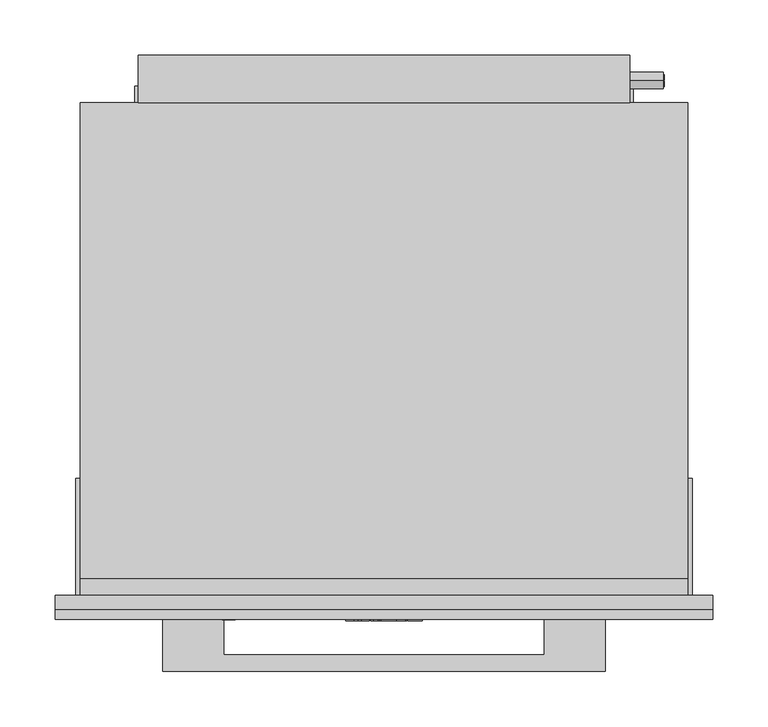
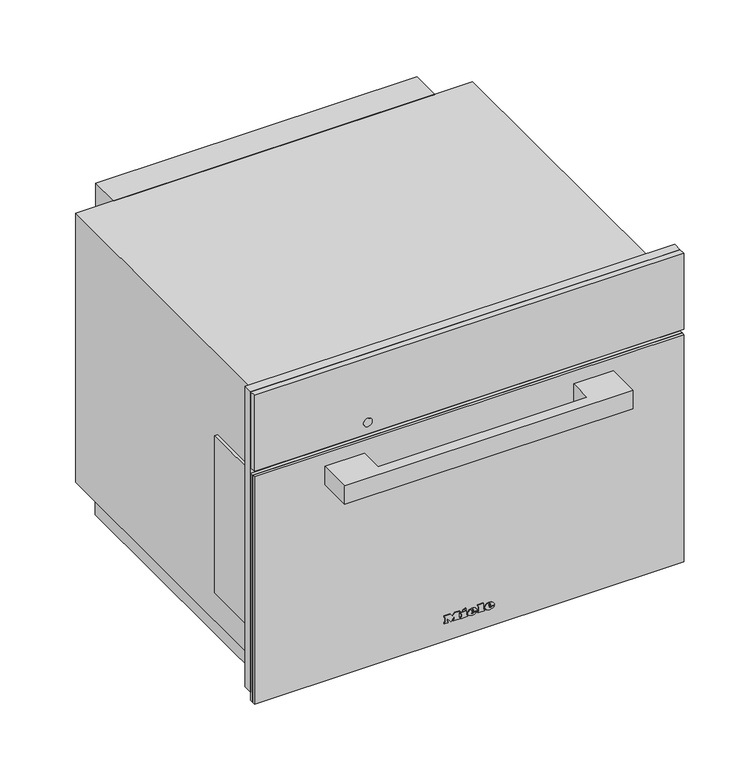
"""IFC4 building model written with IfcOpenShell, lengths in millimetres: proxy geometry, 11103650_D_M7244TC_OBSW : 24724420_D_11103650_M7244TC_OBSW."""

import ifcopenshell
import ifcopenshell.guid

model = None  # the IFC model being written
_history = None  # IfcOwnerHistory: only IFC2X3 demands one
_inside = {}  # id of a spatial element -> (the spatial element, [elements in it])
_under = {}  # id of a project, library or spatial element -> (it, [spatial elements below it])
_declared = {}  # id of a project -> (the project, [libraries it declares])
_typed = {}  # id of a type object -> (the type object, [elements of that type])
_made_of = {}  # id of a material, layer set ... -> (it, [elements and type objects made of it])


def new_model(schema):
    """Start an empty IFC model of exactly this schema.

    Asked for "IFC4X3", IfcOpenShell would pick the latest addendum, in which some entities
    have other attributes; the version numbers below select the first issue.
    IFC2X3 requires an IfcOwnerHistory on every rooted entity: one is made here for all.
    """
    global model, _history
    if schema == "IFC4X3":
        model = ifcopenshell.file(schema_version=(4, 3, 0, 0))
    else:
        model = ifcopenshell.file(schema=schema)
    _inside.clear()
    _under.clear()
    _declared.clear()
    _typed.clear()
    _made_of.clear()
    _history = None
    if model.schema == "IFC2X3":
        org = make("IfcOrganization", Name="unknown")
        user = make(
            "IfcPersonAndOrganization",
            ThePerson=make("IfcPerson", FamilyName="unknown"),
            TheOrganization=org,
        )
        app = make(
            "IfcApplication",
            ApplicationDeveloper=org,
            Version="unknown",
            ApplicationFullName="unknown",
            ApplicationIdentifier="unknown",
        )
        _history = make(
            "IfcOwnerHistory",
            OwningUser=user,
            OwningApplication=app,
            ChangeAction="ADDED",
            CreationDate=0,
        )
    return model


def make(cls, **values):
    """One entity of the class cls with the attributes given. An attribute that is None is left unset."""
    return model.create_entity(
        cls, **{name: value for name, value in values.items() if value is not None}
    )


def rooted(cls, **values):
    """An entity with a GlobalId (a new one), such as an element, a storey or a relation."""
    return make(cls, GlobalId=ifcopenshell.guid.new(), OwnerHistory=_history, **values)


def si_unit(unit_type, name, prefix=None):
    """IfcSIUnit, for example si_unit("LENGTHUNIT", "METRE", prefix="MILLI")."""
    return make("IfcSIUnit", UnitType=unit_type, Prefix=prefix, Name=name)


def assignment(units):
    """IfcUnitAssignment: the units of a project."""
    return None if units is None else make("IfcUnitAssignment", Units=units)


def point(xyz):
    """IfcCartesianPoint."""
    return None if xyz is None else make("IfcCartesianPoint", Coordinates=xyz)


def direction(xyz):
    """IfcDirection."""
    return None if xyz is None else make("IfcDirection", DirectionRatios=xyz)


def frame(location, z_axis=None, x_axis=None):
    """IfcAxis2Placement3D, a coordinate frame: its origin and axes. An axis left out is left unset."""
    return make(
        "IfcAxis2Placement3D",
        Location=point(location),
        Axis=direction(z_axis),
        RefDirection=direction(x_axis),
    )


def frame_2d(location, x_axis=None):
    """IfcAxis2Placement2D, a coordinate frame in the plane: its origin and x axis."""
    return make(
        "IfcAxis2Placement2D", Location=point(location), RefDirection=direction(x_axis)
    )


def origin():
    """The frame at (0, 0, 0) with its axes left unset."""
    return frame((0.0, 0.0, 0.0))


def origin_with_axes():
    """The frame at (0, 0, 0) with the z axis (0, 0, 1) and the x axis (1, 0, 0) written out."""
    return frame((0.0, 0.0, 0.0), z_axis=(0.0, 0.0, 1.0), x_axis=(1.0, 0.0, 0.0))


def place(relative_to, where):
    """IfcLocalPlacement: puts the frame where relative to a parent placement (None: the world)."""
    return make(
        "IfcLocalPlacement", PlacementRelTo=relative_to, RelativePlacement=where
    )


def context(
    kind, dimensions, precision=None, world=None, true_north=None, identifier=None
):
    """IfcGeometricRepresentationContext, for example the 3D "Model" context."""
    return make(
        "IfcGeometricRepresentationContext",
        ContextIdentifier=identifier,
        ContextType=kind,
        CoordinateSpaceDimension=dimensions,
        Precision=precision,
        WorldCoordinateSystem=world,
        TrueNorth=true_north,
    )


def project(units=None, contexts=None):
    """IfcProject with its units and contexts."""
    return rooted(
        "IfcProject",
        Name="project",
        RepresentationContexts=contexts,
        UnitsInContext=assignment(units),
    )


def spatial(cls, under=None, at=None, **own):
    """A site, building, storey or space (cls), placed at a placement, below another one or the project."""
    s = rooted(cls, ObjectPlacement=at, **own)
    if under is not None:
        _under.setdefault(under.id(), (under, []))[1].append(s)
    return s


def polyline(points):
    """IfcPolyline through the points."""
    return make("IfcPolyline", Points=[point(p) for p in points])


def circle_curve(where, radius):
    """IfcCircle in the frame where."""
    return make("IfcCircle", Position=where, Radius=radius)


def ellipse_curve(where, semi_axis1, semi_axis2):
    """IfcEllipse in the frame where."""
    return make(
        "IfcEllipse", Position=where, SemiAxis1=semi_axis1, SemiAxis2=semi_axis2
    )


def trimmed(basis, trim1, trim2, sense, master):
    """IfcTrimmedCurve: the piece of a basis curve between two trims."""
    return make(
        "IfcTrimmedCurve",
        BasisCurve=basis,
        Trim1=trim1,
        Trim2=trim2,
        SenseAgreement=sense,
        MasterRepresentation=master,
    )


def segment(curve, same_sense, transition):
    """IfcCompositeCurveSegment."""
    return make(
        "IfcCompositeCurveSegment",
        Transition=transition,
        SameSense=same_sense,
        ParentCurve=curve,
    )


def composite_curve(segments, self_intersect=None):
    """IfcCompositeCurve: segments joined end to end."""
    return make("IfcCompositeCurve", Segments=segments, SelfIntersect=self_intersect)


def outline(outer, holes=None, kind="AREA"):
    """IfcArbitraryClosedProfileDef: a profile drawn as a closed curve; with holes, ...WithVoids."""
    if holes is None:
        return make("IfcArbitraryClosedProfileDef", ProfileType=kind, OuterCurve=outer)
    return make(
        "IfcArbitraryProfileDefWithVoids",
        ProfileType=kind,
        OuterCurve=outer,
        InnerCurves=holes,
    )


def extrude(swept, where, along, depth):
    """IfcExtrudedAreaSolid: the profile swept, set in the frame where, extruded along a direction by depth."""
    return make(
        "IfcExtrudedAreaSolid",
        SweptArea=swept,
        Position=where,
        ExtrudedDirection=direction(along),
        Depth=depth,
    )


def faces_of(points, faces, orient=None, outer=None):
    """IfcFace entities. A face is a list of loops; a loop is a list of indices into points, from 0.

    orient and outer hold one flag for each loop. By default every Orientation is true, the
    first loop of a face is its IfcFaceOuterBound and the others are IfcFaceBound.
    """
    made = []
    for i, loops in enumerate(faces):
        bounds = []
        for j, loop in enumerate(loops):
            is_outer = j == 0 if outer is None else outer[i][j]
            bounds.append(
                make(
                    "IfcFaceOuterBound" if is_outer else "IfcFaceBound",
                    Bound=make("IfcPolyLoop", Polygon=[points[k] for k in loop]),
                    Orientation=True if orient is None else orient[i][j],
                )
            )
        made.append(make("IfcFace", Bounds=bounds))
    return made


def faceted_brep(points, faces, orient=None, outer=None, voids=None):
    """IfcFacetedBrep: a solid bounded by flat faces; with voids (closed shells), ...WithVoids."""
    shared = [point(p) for p in points]
    hull = make("IfcClosedShell", CfsFaces=faces_of(shared, faces, orient, outer))
    if voids is None:
        return make("IfcFacetedBrep", Outer=hull)
    return make(
        "IfcFacetedBrepWithVoids",
        Outer=hull,
        Voids=[
            make(cls, CfsFaces=faces_of(shared, fs, o, b)) for cls, fs, o, b in voids
        ],
    )


def shape(context_of_items, identifier, shape_type, items):
    """IfcShapeRepresentation: the items that make up one representation, for example the "Body"."""
    return make(
        "IfcShapeRepresentation",
        ContextOfItems=context_of_items,
        RepresentationIdentifier=identifier,
        RepresentationType=shape_type,
        Items=items,
    )


def source(mapping_origin, context_of_items, identifier, shape_type, items):
    """IfcRepresentationMap: a shape defined once, which mapped items show again and again."""
    return make(
        "IfcRepresentationMap",
        MappingOrigin=mapping_origin,
        MappedRepresentation=shape(context_of_items, identifier, shape_type, items),
    )


def transform(
    local_origin,
    x_axis=None,
    y_axis=None,
    z_axis=None,
    scale=None,
    scale2=None,
    scale3=None,
    uniform=True,
):
    """IfcCartesianTransformationOperator3D, or its non-uniform kind. x_axis, y_axis, z_axis: its Axis1, 2, 3."""
    if uniform:
        return make(
            "IfcCartesianTransformationOperator3D",
            Axis1=direction(x_axis),
            Axis2=direction(y_axis),
            LocalOrigin=point(local_origin),
            Scale=scale,
            Axis3=direction(z_axis),
        )
    return make(
        "IfcCartesianTransformationOperator3DnonUniform",
        Axis1=direction(x_axis),
        Axis2=direction(y_axis),
        LocalOrigin=point(local_origin),
        Scale=scale,
        Axis3=direction(z_axis),
        Scale2=scale2,
        Scale3=scale3,
    )


def mapped(mapping_source, mapping_target):
    """IfcMappedItem: shows the shape of a source again, moved by a transform."""
    return make(
        "IfcMappedItem", MappingSource=mapping_source, MappingTarget=mapping_target
    )


def made_of(thing, what):
    """Note that an element or type object is made of a material, layer set ...; save() writes the relation."""
    if what is not None:
        _made_of.setdefault(what.id(), (what, []))[1].append(thing)
    return thing


def element(
    cls,
    number,
    at=None,
    inside=None,
    cuts=None,
    type_object=None,
    material=None,
    context=None,
    identifier="Body",
    shape_type=None,
    held_by="IfcProductDefinitionShape",
    body=None,
    shapes=None,
    **own,
):
    """One element of the class cls, such as IfcWall. Its Tag is "e" and its number.

    at: its placement. inside: the storey or other place that contains it. cuts: it is an
    opening in that element (IfcRelVoidsElement). A single representation is given by context,
    identifier, shape_type and body (its items); several are given by shapes. held_by: the class
    of the entity that holds the representations. save() writes the other relations.
    """
    e = rooted(cls, Tag="e%d" % number, ObjectPlacement=at, **own)
    if body is not None:
        shapes = [shape(context, identifier, shape_type, body)]
    if shapes is not None:
        e.Representation = make(held_by, Representations=shapes)
    if inside is not None:
        _inside.setdefault(inside.id(), (inside, []))[1].append(e)
    if cuts is not None:
        rooted(
            "IfcRelVoidsElement", RelatingBuildingElement=cuts, RelatedOpeningElement=e
        )
    if type_object is not None:
        _typed.setdefault(type_object.id(), (type_object, []))[1].append(e)
    return made_of(e, material)


def aggregate(whole, parts):
    """IfcRelAggregates: a whole, such as a stair, and the parts it consists of."""
    return rooted("IfcRelAggregates", RelatingObject=whole, RelatedObjects=parts)


def save(model, path):
    """Write the relations noted so far, then the file.

    IfcRelAggregates (storeys below a building ...), IfcRelContainedInSpatialStructure (elements
    in a storey), IfcRelDefinesByType, IfcRelAssociatesMaterial and IfcRelDeclares: one each for
    every whole, place, type object, material and project.
    """
    for whole, parts in _under.values():
        aggregate(whole, parts)
    for where, things in _inside.values():
        rooted(
            "IfcRelContainedInSpatialStructure",
            RelatedElements=things,
            RelatingStructure=where,
        )
    for kind, things in _typed.values():
        rooted("IfcRelDefinesByType", RelatedObjects=things, RelatingType=kind)
    for what, things in _made_of.values():
        rooted("IfcRelAssociatesMaterial", RelatedObjects=things, RelatingMaterial=what)
    for by, libraries in _declared.values():
        rooted("IfcRelDeclares", RelatingContext=by, RelatedDefinitions=libraries)
    model.write(path)


def plane_surface(at):
    """IfcPlane: the flat surface through the origin of the frame at, square to its z axis."""
    return make("IfcPlane", Position=at)


def cylinder_surface(at, radius):
    """IfcCylindricalSurface: all points at the distance radius from the z axis of the frame at."""
    return make("IfcCylindricalSurface", Position=at, Radius=radius)


def revolved_surface(curve, axis_point, axis_direction):
    """IfcSurfaceOfRevolution: the curve turned about the line through axis_point along axis_direction."""
    return make(
        "IfcSurfaceOfRevolution",
        SweptCurve=make("IfcArbitraryOpenProfileDef", ProfileType="CURVE", Curve=curve),
        AxisPosition=make("IfcAxis1Placement", Location=point(axis_point), Axis=direction(axis_direction)),
    )


def extruded_surface(curve, direction_of_extrusion, depth):
    """IfcSurfaceOfLinearExtrusion: the curve pushed along a direction by depth."""
    return make(
        "IfcSurfaceOfLinearExtrusion",
        SweptCurve=make("IfcArbitraryOpenProfileDef", ProfileType="CURVE", Curve=curve),
        ExtrudedDirection=direction(direction_of_extrusion),
        Depth=depth,
    )


def advanced_brep(points, edges, surfaces, faces):
    """IfcAdvancedBrep: a solid bounded by faces that lie on surfaces and meet in shared edges.

    An edge is (start, end): straight between two places in points (the first is 0);
    or (start, end, curve); or (start, end, curve, False) where it runs against its curve.
    A face is (place in surfaces, loops), or (place, loops, False) where it looks against
    its surface's normal. A loop lists edges by number (the first is 1), with a minus sign
    where the edge is run from its end to its start. The first loop is the outer one.
    """
    corners = [point(p) for p in points]
    vertices = [make("IfcVertexPoint", VertexGeometry=c) for c in corners]
    made = []
    for start, end, *more in edges:
        made.append(
            make(
                "IfcEdgeCurve",
                EdgeStart=vertices[start],
                EdgeEnd=vertices[end],
                EdgeGeometry=more[0] if more else make("IfcPolyline", Points=[corners[start], corners[end]]),
                SameSense=more[1] if len(more) > 1 else True,
            )
        )
    hull = []
    for where, loops, *sense in faces:
        bounds = []
        for j, loop in enumerate(loops):
            ring = [make("IfcOrientedEdge", EdgeElement=made[abs(k) - 1], Orientation=k > 0) for k in loop]
            bounds.append(
                make(
                    "IfcFaceOuterBound" if j == 0 else "IfcFaceBound",
                    Bound=make("IfcEdgeLoop", EdgeList=ring),
                    Orientation=True,
                )
            )
        hull.append(make("IfcAdvancedFace", Bounds=bounds, FaceSurface=surfaces[where], SameSense=sense[0] if sense else True))
    return make("IfcAdvancedBrep", Outer=make("IfcClosedShell", CfsFaces=hull))


def specialty_equipment_be753a0b(model_context):
    return source(origin(), model_context, "Body", "SolidModel", [
        extrude(outline(polyline([(456.0, 297.5), (456.0, -297.5), (16.0, -297.5), (16.0, 297.5), (456.0, 297.5)]), holes=[polyline([(347.0, -270.0), (347.0, 270.0), (40.0, 270.0), (40.0, -270.0), (347.0, -270.0)])]), frame((0.0, -13.0, 0.0), z_axis=(0.0, 1.0, 0.0), x_axis=(0.0, 0.0, 1.0)), (0.0, 0.0, 1.0), 13.0),
        extrude(outline(composite_curve([segment(trimmed(circle_curve(frame_2d((251.5, 37.5)), 10.5), [point((251.5, 27.0))], [point((251.5, 48.0))], False, "CARTESIAN"), True, "CONTINUOUS"), segment(trimmed(circle_curve(frame_2d((251.5, 37.5)), 10.5), [point((251.5, 48.0))], [point((251.5, 27.0))], False, "CARTESIAN"), True, "CONTINUOUS")], self_intersect=False)), origin_with_axes(), (0.0, 0.0, 1.0), 3.0),
        extrude(outline(composite_curve([segment(trimmed(circle_curve(frame_2d((251.5, 397.5)), 10.5), [point((251.5, 387.0))], [point((251.5, 408.0))], False, "CARTESIAN"), True, "CONTINUOUS"), segment(trimmed(circle_curve(frame_2d((251.5, 397.5)), 10.5), [point((251.5, 408.0))], [point((251.5, 387.0))], False, "CARTESIAN"), True, "CONTINUOUS")], self_intersect=False)), origin_with_axes(), (0.0, 0.0, 1.0), 3.0),
        extrude(outline(composite_curve([segment(trimmed(circle_curve(frame_2d((-251.5, 397.5)), 10.5), [point((-251.5, 387.0))], [point((-251.5, 408.0))], False, "CARTESIAN"), True, "CONTINUOUS"), segment(trimmed(circle_curve(frame_2d((-251.5, 397.5)), 10.5), [point((-251.5, 408.0))], [point((-251.5, 387.0))], False, "CARTESIAN"), True, "CONTINUOUS")], self_intersect=False)), origin_with_axes(), (0.0, 0.0, 1.0), 3.0),
        extrude(outline(composite_curve([segment(trimmed(circle_curve(frame_2d((-251.5, 37.5)), 10.5), [point((-251.5, 27.0))], [point((-251.5, 48.0))], False, "CARTESIAN"), True, "CONTINUOUS"), segment(trimmed(circle_curve(frame_2d((-251.5, 37.5)), 10.5), [point((-251.5, 48.0))], [point((-251.5, 27.0))], False, "CARTESIAN"), True, "CONTINUOUS")], self_intersect=False)), origin_with_axes(), (0.0, 0.0, 1.0), 3.0),
        extrude(outline(polyline([(115.0, 330.0), (115.0, 130.0), (-115.0, 130.0), (-115.0, 330.0), (115.0, 330.0)])), frame((0.0, 0.0, 11.0), z_axis=(0.0, 0.0, 1.0), x_axis=(1.0, 0.0, 0.0)), (0.0, 0.0, 1.0), 26.0),
        extrude(outline(composite_curve([segment(trimmed(circle_curve(frame_2d((466.0, 369.0)), 7.5), [point((466.0, 361.5))], [point((466.0, 376.5))], False, "CARTESIAN"), True, "CONTINUOUS"), segment(trimmed(circle_curve(frame_2d((466.0, 369.0)), 7.5), [point((466.0, 376.5))], [point((466.0, 361.5))], False, "CARTESIAN"), True, "CONTINUOUS")], self_intersect=False)), frame((222.5, 0.0, 0.0), z_axis=(1.0, 0.0, 0.0), x_axis=(0.0, 1.0, 0.0)), (0.0, 0.0, 1.0), 30.0),
        extrude(outline(polyline([(-222.5, 489.0), (222.5, 489.0), (222.5, 446.0), (-222.5, 446.0), (-222.5, 489.0)])), frame((0.0, 0.0, 316.0), z_axis=(0.0, 0.0, 1.0), x_axis=(1.0, 0.0, 0.0)), (0.0, 0.0, 1.0), 115.0),
        extrude(outline(polyline([(275.0, 0.0), (275.0, 106.0), (279.0, 106.0), (279.0, 0.0), (275.0, 0.0)])), frame((0.0, 0.0, 83.2054686), z_axis=(0.0, 0.0, 1.0), x_axis=(1.0, 0.0, 0.0)), (0.0, 0.0, 1.0), 230.0),
        extrude(outline(polyline([(-279.0, 0.0), (-279.0, 106.0), (-275.0, 106.0), (-275.0, 0.0), (-279.0, 0.0)])), frame((0.0, 0.0, 83.2054686), z_axis=(0.0, 0.0, 1.0), x_axis=(1.0, 0.0, 0.0)), (0.0, 0.0, 1.0), 230.0),
        extrude(outline(polyline([(460.5132233, 374.0), (465.5132233, 374.0), (465.5132233, 373.0), (461.5132233, 373.0), (461.5132233, 369.5), (464.5132233, 369.5), (464.5132233, 368.5), (461.5132233, 368.5), (461.5132233, 365.0), (465.5132233, 365.0), (465.5132233, 364.0), (460.5132233, 364.0), (460.5132233, 374.0)])), frame((252.5, 0.0, 0.0), z_axis=(1.0, 0.0, 0.0), x_axis=(0.0, 1.0, 0.0)), (0.0, 0.0, 1.0), 1.0),
        extrude(outline(polyline([(466.5132233, 364.0), (466.5132233, 374.0), (467.5176929, 374.0), (467.5176929, 365.0), (471.5132233, 365.0), (471.5132233, 364.0), (466.5132233, 364.0)])), frame((252.5, 0.0, 0.0), z_axis=(1.0, 0.0, 0.0), x_axis=(0.0, 1.0, 0.0)), (0.0, 0.0, 1.0), 1.0),
        extrude(outline(polyline([(289.0, -225.5), (58.0, -225.5), (58.0, 0.0), (58.0, 225.5), (289.0, 225.5), (289.0, 0.0), (289.0, -225.5)])), frame((0.0, 446.0, 0.0), z_axis=(0.0, 1.0, 0.0), x_axis=(0.0, 0.0, 1.0)), (0.0, 0.0, 1.0), 15.0),
        faceted_brep([(-275.0, 446.0, 431.0), (275.0, 446.0, 431.0), (275.0, 446.0, 37.0), (-275.0, 446.0, 37.0), (-275.0, 0.0, 37.0), (-264.0, 0.0, 37.0), (-264.0, 0.0, 3.0), (-239.0, 0.0, 3.0), (-239.0, 0.0, 37.0), (239.0, 0.0, 37.0), (239.0, 0.0, 3.0), (264.0, 0.0, 3.0), (264.0, 0.0, 37.0), (275.0, 0.0, 37.0), (275.0, 0.0, 438.0), (-275.0, 0.0, 438.0), (-270.0, 0.0, 347.0), (270.0, 0.0, 347.0), (270.0, 0.0, 40.0), (-270.0, 0.0, 40.0), (-275.0, 15.0, 431.0), (275.0, 15.0, 431.0), (-275.0, 15.0, 438.0), (275.0, 15.0, 438.0), (270.0, 16.0, 347.0), (-270.0, 16.0, 347.0), (-270.0, 16.0, 40.0), (270.0, 16.0, 40.0), (225.0, 16.0, 303.0), (225.0, 16.0, 71.0), (-225.0, 16.0, 71.0), (-225.0, 16.0, 303.0), (225.0, 444.0, 303.0), (-225.0, 444.0, 303.0), (-225.0, 444.0, 71.0), (225.0, 444.0, 71.0), (-239.0, 418.0, 37.0), (-264.0, 418.0, 37.0), (264.0, 418.0, 37.0), (239.0, 418.0, 37.0), (-239.0, 418.0, 3.0), (239.0, 418.0, 3.0), (264.0, 418.0, 3.0), (-264.0, 418.0, 3.0)], [[[0, 1, 2, 3]], [[4, 5, 6, 7, 8, 9, 10, 11, 12, 13, 14, 15], [16, 17, 18, 19]], [[1, 0, 20, 21]], [[0, 3, 4, 15, 22, 20]], [[2, 1, 21, 23, 14, 13]], [[24, 25, 26, 27], [28, 29, 30, 31]], [[25, 24, 17, 16]], [[26, 25, 16, 19]], [[27, 26, 19, 18]], [[24, 27, 18, 17]], [[32, 33, 34, 35]], [[32, 35, 29, 28]], [[35, 34, 30, 29]], [[34, 33, 31, 30]], [[33, 32, 28, 31]], [[14, 23, 22, 15]], [[23, 21, 20, 22]], [[36, 37, 5, 4, 3, 2, 13, 12, 38, 39, 9, 8]], [[36, 8, 7, 40]], [[9, 39, 41, 10]], [[39, 38, 42, 41]], [[38, 12, 11, 42]], [[5, 37, 43, 6]], [[37, 36, 40, 43]], [[7, 6, 43, 40]], [[11, 10, 41, 42]]]),
        advanced_brep(
        [(27.088, -23.0, 32.7018), (27.088, -23.0, 33.8532), (34.7146, -23.0, 33.8532), (21.445, -23.0, 33.8532), (24.58, -23.0, 30.0), (34.5208, -23.0, 32.7018), (31.078, -23.0, 32.7018), (28.3648, -23.0, 31.425), (27.088, -23.0, 35.3124), (27.088, -23.0, 36.555), (29.0374, -23.0, 36.555), (29.0374, -23.0, 35.3124), (27.088, -22.0, 32.7018), (28.3648, -22.0, 31.425), (31.078, -22.0, 32.7018), (34.5208, -22.0, 32.7018), (24.58, -22.0, 30.0), (21.445, -22.0, 33.8532), (34.7146, -22.0, 33.8532), (27.088, -22.0, 33.8532), (27.088, -22.0, 35.3124), (29.0374, -22.0, 35.3124), (29.0374, -22.0, 36.555), (27.088, -22.0, 36.555)],
        [
            (0, 1),
            (1, 2),
            (2, 3, ellipse_curve(frame((28.0798, -23.0, 33.8532), z_axis=(0.0, -1.0, 0.0), x_axis=(-1.0, 0.0, 0.0)), 6.6348, 5.4834)),
            (3, 4, circle_curve(frame((25.8568622, -23.0, 34.2408), z_axis=(0.0, -1.0, 0.0), x_axis=(0.0, 0.0, -1.0)), 4.4288556)),
            (4, 5, circle_curve(frame((27.9469808, -23.0, 37.2504), z_axis=(0.0, -1.0, 0.0), x_axis=(0.0, 0.0, -1.0)), 7.9940516)),
            (5, 6),
            (6, 7, circle_curve(frame((28.9220588, -23.0, 33.762), z_axis=(0.0, 1.0, 0.0), x_axis=(0.0, 0.0, -1.0)), 2.4025208)),
            (7, 0, circle_curve(frame((28.3648, -23.0, 32.7018), z_axis=(0.0, 1.0, 0.0), x_axis=(0.0, 0.0, -1.0)), 1.2768)),
            (8, 9),
            (9, 10, circle_curve(frame((28.0627, -23.0, 36.555), z_axis=(0.0, 1.0, 0.0), x_axis=(0.0, 0.0, -1.0)), 0.9747)),
            (10, 11),
            (11, 8),
            (12, 13, circle_curve(frame((28.3648, -22.0, 32.7018), z_axis=(0.0, -1.0, 0.0), x_axis=(0.0, 0.0, -1.0)), 1.2768)),
            (13, 14, circle_curve(frame((28.9220588, -22.0, 33.762), z_axis=(0.0, -1.0, 0.0), x_axis=(0.0, 0.0, -1.0)), 2.4025208)),
            (14, 15),
            (15, 16, circle_curve(frame((27.9469808, -22.0, 37.2504), z_axis=(0.0, 1.0, 0.0), x_axis=(0.0, 0.0, -1.0)), 7.9940516)),
            (16, 17, circle_curve(frame((25.8568622, -22.0, 34.2408), z_axis=(0.0, 1.0, 0.0), x_axis=(0.0, 0.0, -1.0)), 4.4288556)),
            (17, 18, ellipse_curve(frame((28.0798, -22.0, 33.8532), z_axis=(0.0, 1.0, 0.0), x_axis=(-1.0, 0.0, 0.0)), 6.6348, 5.4834)),
            (18, 19),
            (19, 12),
            (20, 21),
            (21, 22),
            (22, 23, circle_curve(frame((28.0627, -22.0, 36.555), z_axis=(0.0, -1.0, 0.0), x_axis=(0.0, 0.0, -1.0)), 0.9747)),
            (23, 20),
            (0, 12),
            (19, 1),
            (18, 2),
            (5, 15),
            (14, 6),
            (17, 3),
            (13, 7),
            (16, 4),
            (8, 20),
            (23, 9),
            (22, 10),
            (21, 11),
        ],
        [
            plane_surface(frame((27.088, -23.0, 33.8532), z_axis=(0.0, -1.0, 0.0), x_axis=(0.0, 0.0, 1.0))),
            plane_surface(frame((27.088, -22.0, 33.8532), z_axis=(0.0, 1.0, 0.0), x_axis=(0.0, 0.0, -1.0))),
            plane_surface(frame((27.088, -23.0, 32.7018), z_axis=(1.0, 0.0, 0.0), x_axis=(0.0, 1.0, 0.0))),
            plane_surface(frame((27.088, -23.0, 33.8532), z_axis=(0.0, 0.0, -1.0), x_axis=(0.0, 1.0, 0.0))),
            plane_surface(frame((34.5208, -23.0, 32.7018), z_axis=(0.0, 0.0, 1.0), x_axis=(0.0, 1.0, 0.0))),
            extruded_surface(trimmed(ellipse_curve(frame((28.0798, -21.0, 33.8532), z_axis=(0.0, -1.0, 0.0), x_axis=(-1.0, 0.0, 0.0)), 6.6348, 5.4834), [point((34.7146, -21.0, 33.8532))], [point((21.445, -21.0, 33.8532))], True, "CARTESIAN"), (0.0, -1.0, 0.0), 1.0),
            revolved_surface(polyline([(28.9220588, -22.0, 31.3594792), (28.9220588, -23.0, 31.3594792)]), (28.9220588, -22.0, 33.762), (0.0, 1.0, 0.0)),
            revolved_surface(polyline([(28.3648, -22.0, 31.424999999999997), (28.3648, -23.0, 31.424999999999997)]), (28.3648, -22.0, 32.7018), (0.0, 1.0, 0.0)),
            cylinder_surface(frame((25.8568622, -22.0, 34.2408), z_axis=(0.0, -1.0, 0.0), x_axis=(0.0, 0.0, -1.0)), 4.4288556),
            cylinder_surface(frame((27.9469808, -22.0, 37.2504), z_axis=(0.0, -1.0, 0.0), x_axis=(0.0, 0.0, -1.0)), 7.9940516),
            plane_surface(frame((27.088, -23.0, 35.3124), z_axis=(1.0, 0.0, 0.0), x_axis=(0.0, 1.0, 0.0))),
            revolved_surface(polyline([(28.0627, -22.0, 35.5803), (28.0627, -23.0, 35.5803)]), (28.0627, -22.0, 36.555), (0.0, 1.0, 0.0)),
            plane_surface(frame((29.0374, -23.0, 36.555), z_axis=(-1.0, 0.0, 0.0), x_axis=(0.0, 1.0, 0.0))),
            plane_surface(frame((29.0374, -23.0, 35.3124), z_axis=(0.0, 0.0, 1.0), x_axis=(0.0, 1.0, 0.0))),
        ],
        [
            (0, [[1, 2, 3, 4, 5, 6, 7, 8], [9, 10, 11, 12]]),
            (1, [[13, 14, 15, 16, 17, 18, 19, 20], [21, 22, 23, 24]]),
            (2, [[-1, 25, -20, 26]]),
            (3, [[-2, -26, -19, 27]]),
            (4, [[-6, 28, -15, 29]]),
            (5, [[-3, -27, -18, 30]]),
            (6, [[-7, -29, -14, 31]]),
            (7, [[-8, -31, -13, -25]]),
            (8, [[-4, -30, -17, 32]]),
            (9, [[-5, -32, -16, -28]]),
            (10, [[-9, 33, -24, 34]]),
            (11, [[-10, -34, -23, 35]]),
            (12, [[-11, -35, -22, 36]]),
            (13, [[-12, -36, -21, -33]]),
        ],
    ),
        advanced_brep(
        [(3.2962, -23.0, 32.7018), (3.2962, -23.0, 33.8532), (10.9228, -23.0, 33.8532), (-2.3468, -23.0, 33.8532), (0.7882, -23.0, 30.0), (10.729, -23.0, 32.7018), (7.2862, -23.0, 32.7018), (4.573, -23.0, 31.425), (3.2962, -23.0, 35.3124), (3.2962, -23.0, 36.555), (5.2456, -23.0, 36.555), (5.2456, -23.0, 35.3124), (3.2962, -22.0, 32.7018), (4.573, -22.0, 31.425), (7.2862, -22.0, 32.7018), (10.729, -22.0, 32.7018), (0.7882, -22.0, 30.0), (-2.3468, -22.0, 33.8532), (10.9228, -22.0, 33.8532), (3.2962, -22.0, 33.8532), (3.2962, -22.0, 35.3124), (5.2456, -22.0, 35.3124), (5.2456, -22.0, 36.555), (3.2962, -22.0, 36.555)],
        [
            (0, 1),
            (1, 2),
            (2, 3, ellipse_curve(frame((4.288, -23.0, 33.8532), z_axis=(0.0, -1.0, 0.0), x_axis=(-1.0, 0.0, 0.0)), 6.6348, 5.4834)),
            (3, 4, circle_curve(frame((2.0650622, -23.0, 34.2408), z_axis=(0.0, -1.0, 0.0), x_axis=(0.0, 0.0, -1.0)), 4.4288556)),
            (4, 5, circle_curve(frame((4.1551808, -23.0, 37.2504), z_axis=(0.0, -1.0, 0.0), x_axis=(0.0, 0.0, -1.0)), 7.9940516)),
            (5, 6),
            (6, 7, circle_curve(frame((5.1302588, -23.0, 33.762), z_axis=(0.0, 1.0, 0.0), x_axis=(0.0, 0.0, -1.0)), 2.4025208)),
            (7, 0, circle_curve(frame((4.573, -23.0, 32.7018), z_axis=(0.0, 1.0, 0.0), x_axis=(0.0, 0.0, -1.0)), 1.2768)),
            (8, 9),
            (9, 10, circle_curve(frame((4.2709, -23.0, 36.555), z_axis=(0.0, 1.0, 0.0), x_axis=(0.0, 0.0, -1.0)), 0.9747)),
            (10, 11),
            (11, 8),
            (12, 13, circle_curve(frame((4.573, -22.0, 32.7018), z_axis=(0.0, -1.0, 0.0), x_axis=(0.0, 0.0, -1.0)), 1.2768)),
            (13, 14, circle_curve(frame((5.1302588, -22.0, 33.762), z_axis=(0.0, -1.0, 0.0), x_axis=(0.0, 0.0, -1.0)), 2.4025208)),
            (14, 15),
            (15, 16, circle_curve(frame((4.1551808, -22.0, 37.2504), z_axis=(0.0, 1.0, 0.0), x_axis=(0.0, 0.0, -1.0)), 7.9940516)),
            (16, 17, circle_curve(frame((2.0650622, -22.0, 34.2408), z_axis=(0.0, 1.0, 0.0), x_axis=(0.0, 0.0, -1.0)), 4.4288556)),
            (17, 18, ellipse_curve(frame((4.288, -22.0, 33.8532), z_axis=(0.0, 1.0, 0.0), x_axis=(-1.0, 0.0, 0.0)), 6.6348, 5.4834)),
            (18, 19),
            (19, 12),
            (20, 21),
            (21, 22),
            (22, 23, circle_curve(frame((4.2709, -22.0, 36.555), z_axis=(0.0, -1.0, 0.0), x_axis=(0.0, 0.0, -1.0)), 0.9747)),
            (23, 20),
            (0, 12),
            (19, 1),
            (18, 2),
            (5, 15),
            (14, 6),
            (17, 3),
            (13, 7),
            (16, 4),
            (8, 20),
            (23, 9),
            (22, 10),
            (21, 11),
        ],
        [
            plane_surface(frame((3.2962, -23.0, 33.8532), z_axis=(0.0, -1.0, 0.0), x_axis=(0.0, 0.0, 1.0))),
            plane_surface(frame((3.2962, -22.0, 33.8532), z_axis=(0.0, 1.0, 0.0), x_axis=(0.0, 0.0, -1.0))),
            plane_surface(frame((3.2962, -23.0, 32.7018), z_axis=(1.0, 0.0, 0.0), x_axis=(0.0, 1.0, 0.0))),
            plane_surface(frame((3.2962, -23.0, 33.8532), z_axis=(0.0, 0.0, -1.0), x_axis=(0.0, 1.0, 0.0))),
            plane_surface(frame((10.729, -23.0, 32.7018), z_axis=(0.0, 0.0, 1.0), x_axis=(0.0, 1.0, 0.0))),
            extruded_surface(trimmed(ellipse_curve(frame((4.288, -21.0, 33.8532), z_axis=(0.0, -1.0, 0.0), x_axis=(-1.0, 0.0, 0.0)), 6.6348, 5.4834), [point((10.9228, -21.0, 33.8532))], [point((-2.3468, -21.0, 33.8532))], True, "CARTESIAN"), (0.0, -1.0, 0.0), 1.0),
            revolved_surface(polyline([(5.1302588, -22.0, 31.3594792), (5.1302588, -23.0, 31.3594792)]), (5.1302588, -22.0, 33.762), (0.0, 1.0, 0.0)),
            revolved_surface(polyline([(4.573, -22.0, 31.424999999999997), (4.573, -23.0, 31.424999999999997)]), (4.573, -22.0, 32.7018), (0.0, 1.0, 0.0)),
            cylinder_surface(frame((2.0650622, -22.0, 34.2408), z_axis=(0.0, -1.0, 0.0), x_axis=(0.0, 0.0, -1.0)), 4.4288556),
            cylinder_surface(frame((4.1551808, -22.0, 37.2504), z_axis=(0.0, -1.0, 0.0), x_axis=(0.0, 0.0, -1.0)), 7.9940516),
            plane_surface(frame((3.2962, -23.0, 35.3124), z_axis=(1.0, 0.0, 0.0), x_axis=(0.0, 1.0, 0.0))),
            revolved_surface(polyline([(4.2709, -22.0, 35.5803), (4.2709, -23.0, 35.5803)]), (4.2709, -22.0, 36.555), (0.0, 1.0, 0.0)),
            plane_surface(frame((5.2456, -23.0, 36.555), z_axis=(-1.0, 0.0, 0.0), x_axis=(0.0, 1.0, 0.0))),
            plane_surface(frame((5.2456, -23.0, 35.3124), z_axis=(0.0, 0.0, 1.0), x_axis=(0.0, 1.0, 0.0))),
        ],
        [
            (0, [[1, 2, 3, 4, 5, 6, 7, 8], [9, 10, 11, 12]]),
            (1, [[13, 14, 15, 16, 17, 18, 19, 20], [21, 22, 23, 24]]),
            (2, [[-1, 25, -20, 26]]),
            (3, [[-2, -26, -19, 27]]),
            (4, [[-6, 28, -15, 29]]),
            (5, [[-3, -27, -18, 30]]),
            (6, [[-7, -29, -14, 31]]),
            (7, [[-8, -31, -13, -25]]),
            (8, [[-4, -30, -17, 32]]),
            (9, [[-5, -32, -16, -28]]),
            (10, [[-9, 33, -24, 34]]),
            (11, [[-10, -34, -23, 35]]),
            (12, [[-11, -35, -22, 36]]),
            (13, [[-12, -36, -21, -33]]),
        ],
    ),
        extrude(outline(polyline([(40.7274, -9.164), (38.8806, -8.2976), (40.6818, -4.433), (42.5286, -5.288), (40.7274, -9.164)])), frame((0.0, -23.0, 0.0), z_axis=(0.0, 1.0, 0.0), x_axis=(0.0, 0.0, 1.0)), (0.0, 0.0, 1.0), 1.0),
        extrude(outline(polyline([(38.6298, -11.9798), (36.5892, -11.9798), (36.5892, -10.6232), (31.9152, -10.6232), (31.9152, -11.9798), (30.0, -11.9798), (30.0, -2.9852), (31.9152, -2.9852), (31.9152, -4.3076), (38.6298, -4.3076), (38.6298, -11.9798)])), frame((0.0, -23.0, 0.0), z_axis=(0.0, 1.0, 0.0), x_axis=(0.0, 0.0, 1.0)), (0.0, 0.0, 1.0), 1.0),
        extrude(outline(polyline([(39.5418, 11.5612), (39.5418, 12.9292), (31.9152, 12.9292), (31.9152, 11.5612), (30.0, 11.5612), (30.0, 20.8066), (31.9152, 20.8066), (31.9152, 19.4044), (41.4, 19.4044), (41.4, 11.5612), (39.5418, 11.5612)])), frame((0.0, -23.0, 0.0), z_axis=(0.0, 1.0, 0.0), x_axis=(0.0, 0.0, 1.0)), (0.0, 0.0, 1.0), 1.0),
        extrude(outline(polyline([(39.5418, -34.7), (39.5418, -33.3206), (31.9152, -33.3206), (31.9152, -34.7), (30.0, -34.7), (30.0, -29.684), (31.9152, -29.684), (31.9152, -31.052), (36.7429247, -31.052), (30.0, -25.9562), (36.9402223, -20.8376), (31.9152, -20.8376), (31.9152, -22.2398), (30.0, -22.2398), (30.0, -13.1426), (31.9152, -13.1426), (31.9152, -14.5904), (39.5418, -14.5904), (39.5418, -13.1426), (41.4, -13.1426), (41.4, -20.0852), (37.125, -23.414), (41.4, -26.7542), (41.4, -34.7), (39.5418, -34.7)])), frame((0.0, -23.0, 0.0), z_axis=(0.0, 1.0, 0.0), x_axis=(0.0, 0.0, 1.0)), (0.0, 0.0, 1.0), 1.0),
        extrude(outline(polyline([(297.5, -22.0), (-297.5, -22.0), (-297.5, -13.0), (297.5, -13.0), (297.5, -22.0)])), frame((0.0, 0.0, 345.0), z_axis=(0.0, 0.0, 1.0), x_axis=(1.0, 0.0, 0.0)), (0.0, 0.0, 1.0), 111.0),
        extrude(outline(composite_curve([segment(trimmed(circle_curve(frame_2d((362.0, -140.5745637)), 6.0), [point((362.0, -146.5745637))], [point((362.0, -134.5745637))], False, "CARTESIAN"), True, "CONTINUOUS"), segment(trimmed(circle_curve(frame_2d((362.0, -140.5745637)), 6.0), [point((362.0, -134.5745637))], [point((362.0, -146.5745637))], False, "CARTESIAN"), True, "CONTINUOUS")], self_intersect=False)), frame((0.0, -22.5, 0.0), z_axis=(0.0, 1.0, 0.0), x_axis=(0.0, 0.0, 1.0)), (0.0, 0.0, 1.0), 1.0),
        extrude(outline(polyline([(-200.0, -69.0), (-200.0, -22.0), (-145.0, -22.0), (-145.0, -54.0), (145.0, -54.0), (145.0, -22.0), (200.0, -22.0), (200.0, -69.0), (-200.0, -69.0)])), frame((0.0, 0.0, 291.0), z_axis=(0.0, 0.0, 1.0), x_axis=(1.0, 0.0, 0.0)), (0.0, 0.0, 1.0), 27.0),
        extrude(outline(polyline([(297.5, -18.0), (-297.5, -18.0), (-297.5, -13.0), (297.5, -13.0), (297.5, -18.0)])), frame((0.0, 0.0, 4.0), z_axis=(0.0, 0.0, 1.0), x_axis=(1.0, 0.0, 0.0)), (0.0, 0.0, 1.0), 333.0),
        extrude(outline(polyline([(-297.5, -18.0), (297.5, -18.0), (297.5, -22.0), (-297.5, -22.0), (-297.5, -18.0)])), frame((0.0, 0.0, 4.0), z_axis=(0.0, 0.0, 1.0), x_axis=(1.0, 0.0, 0.0)), (0.0, 0.0, 1.0), 333.0),
    ])


if __name__ == "__main__":
    model = new_model("IFC4")
    model_context = context("Model", 3, world=origin())
    ifc_project = project(units=[si_unit("LENGTHUNIT", "METRE", prefix="MILLI")], contexts=[model_context])
    site = spatial("IfcSite", under=ifc_project)
    building = spatial("IfcBuilding", under=site)
    placement = place(None, origin())
    specialty_equipment_shape = specialty_equipment_be753a0b(model_context)
    element("IfcBuildingElementProxy", 1, Name="11103650_D_M7244TC_OBSW : 24724420_D_11103650_M7244TC_OBSW", ObjectType="11103650_D_M7244TC_OBSW : 24724420_D_11103650_M7244TC_OBSW", at=placement, inside=building, context=model_context, shape_type="MappedRepresentation", body=[
        mapped(specialty_equipment_shape, transform((0.0, 0.0, 0.0), x_axis=(1.0, 0.0, 0.0), y_axis=(0.0, 1.0, 0.0), z_axis=(0.0, 0.0, 1.0))),
    ])
    save(model, "model.ifc")
